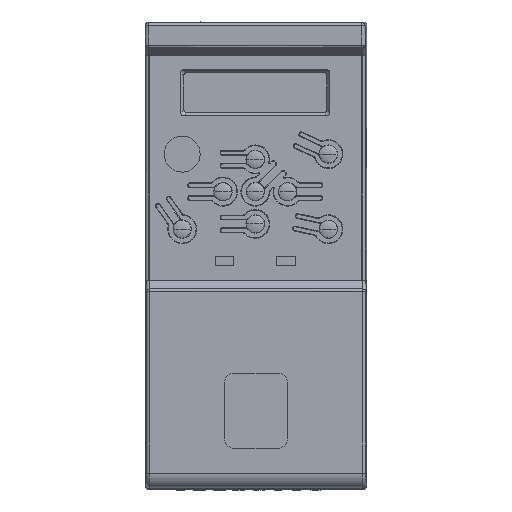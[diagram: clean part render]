
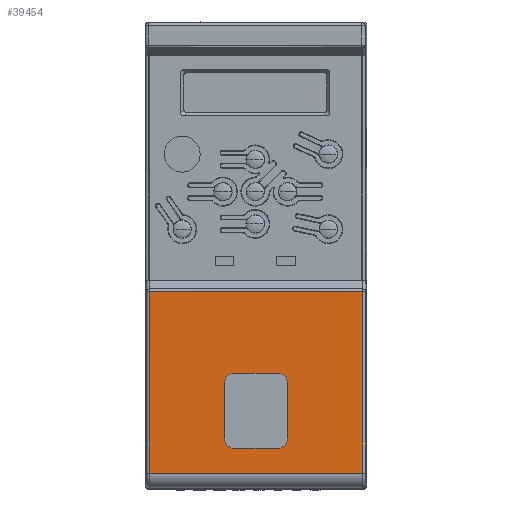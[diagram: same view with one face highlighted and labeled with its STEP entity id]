
A CAD part, front view. The second image highlights one B-rep face of the part: STEP entity #39454.
In plain terms, the highlighted planar face has unit normal (0, -1, 0).
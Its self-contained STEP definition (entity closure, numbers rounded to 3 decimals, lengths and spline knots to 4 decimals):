
#406=FACE_BOUND('',#6504,.T.);
#1829=CIRCLE('',#42625,0.1181);
#1830=CIRCLE('',#42626,0.1181);
#1831=CIRCLE('',#42627,0.1181);
#1832=CIRCLE('',#42628,0.1181);
#2018=B_SPLINE_CURVE_WITH_KNOTS('',3,(#70704,#70705,#70706,#70707,#70708,
#70709,#70710,#70711,#70712,#70713,#70714,#70715,#70716,#70717),
 .UNSPECIFIED.,.F.,.F.,(4,1,1,1,1,1,1,1,1,1,1,4),(0.,0.0734,0.1587,
0.2547,0.364,0.4854,0.6046,0.7106,
0.8043,0.8874,0.9619,1.),.UNSPECIFIED.);
#4346=FACE_OUTER_BOUND('',#6503,.T.);
#6503=EDGE_LOOP('',(#34093,#34094,#34095,#34096));
#6504=EDGE_LOOP('',(#34097,#34098,#34099,#34100,#34101,#34102,#34103,#34104));
#10464=LINE('',#70695,#14426);
#10465=LINE('',#70703,#14427);
#10466=LINE('',#70718,#14428);
#10467=LINE('',#70721,#14429);
#10468=LINE('',#70725,#14430);
#10469=LINE('',#70729,#14431);
#10470=LINE('',#70733,#14432);
#14426=VECTOR('',#52847,2.3278);
#14427=VECTOR('',#52856,2.3278);
#14428=VECTOR('',#52857,2.7358);
#14429=VECTOR('',#52858,0.7244);
#14430=VECTOR('',#52861,0.5669);
#14431=VECTOR('',#52864,0.7244);
#14432=VECTOR('',#52867,0.5669);
#17916=VERTEX_POINT('',#70693);
#17917=VERTEX_POINT('',#70694);
#17919=VERTEX_POINT('',#70701);
#17920=VERTEX_POINT('',#70702);
#17921=VERTEX_POINT('',#70719);
#17922=VERTEX_POINT('',#70720);
#17923=VERTEX_POINT('',#70722);
#17924=VERTEX_POINT('',#70724);
#17925=VERTEX_POINT('',#70726);
#17926=VERTEX_POINT('',#70728);
#17927=VERTEX_POINT('',#70730);
#17928=VERTEX_POINT('',#70732);
#23319=EDGE_CURVE('',#17916,#17917,#10464,.T.);
#23323=EDGE_CURVE('',#17919,#17920,#10465,.T.);
#23324=EDGE_CURVE('',#17916,#17920,#2018,.T.);
#23325=EDGE_CURVE('',#17917,#17919,#10466,.T.);
#23326=EDGE_CURVE('',#17921,#17922,#10467,.T.);
#23327=EDGE_CURVE('',#17923,#17922,#1829,.T.);
#23328=EDGE_CURVE('',#17923,#17924,#10468,.T.);
#23329=EDGE_CURVE('',#17925,#17924,#1830,.T.);
#23330=EDGE_CURVE('',#17925,#17926,#10469,.T.);
#23331=EDGE_CURVE('',#17927,#17926,#1831,.T.);
#23332=EDGE_CURVE('',#17927,#17928,#10470,.T.);
#23333=EDGE_CURVE('',#17921,#17928,#1832,.T.);
#34093=ORIENTED_EDGE('',*,*,#23323,.T.);
#34094=ORIENTED_EDGE('',*,*,#23324,.F.);
#34095=ORIENTED_EDGE('',*,*,#23319,.T.);
#34096=ORIENTED_EDGE('',*,*,#23325,.T.);
#34097=ORIENTED_EDGE('',*,*,#23326,.T.);
#34098=ORIENTED_EDGE('',*,*,#23327,.F.);
#34099=ORIENTED_EDGE('',*,*,#23328,.T.);
#34100=ORIENTED_EDGE('',*,*,#23329,.F.);
#34101=ORIENTED_EDGE('',*,*,#23330,.T.);
#34102=ORIENTED_EDGE('',*,*,#23331,.F.);
#34103=ORIENTED_EDGE('',*,*,#23332,.T.);
#34104=ORIENTED_EDGE('',*,*,#23333,.F.);
#35474=PLANE('',#42624);
#39454=ADVANCED_FACE('',(#4346,#406),#35474,.F.);
#42624=AXIS2_PLACEMENT_3D('',#70700,#52854,#52855);
#42625=AXIS2_PLACEMENT_3D('',#70723,#52859,#52860);
#42626=AXIS2_PLACEMENT_3D('',#70727,#52862,#52863);
#42627=AXIS2_PLACEMENT_3D('',#70731,#52865,#52866);
#42628=AXIS2_PLACEMENT_3D('',#70734,#52868,#52869);
#52847=DIRECTION('',(0.,0.,-1.));
#52854=DIRECTION('center_axis',(0.,1.,0.));
#52855=DIRECTION('ref_axis',(1.,0.,0.));
#52856=DIRECTION('',(0.,0.,1.));
#52857=DIRECTION('',(1.,0.,0.));
#52858=DIRECTION('',(0.,0.,-1.));
#52859=DIRECTION('center_axis',(0.,-1.,0.));
#52860=DIRECTION('ref_axis',(0.,0.,-1.));
#52861=DIRECTION('',(-1.,0.,0.));
#52862=DIRECTION('center_axis',(0.,-1.,0.));
#52863=DIRECTION('ref_axis',(-1.,0.,0.));
#52864=DIRECTION('',(0.,0.,1.));
#52865=DIRECTION('center_axis',(0.,-1.,0.));
#52866=DIRECTION('ref_axis',(0.,0.,1.));
#52867=DIRECTION('',(1.,0.,0.));
#52868=DIRECTION('center_axis',(0.,-1.,0.));
#52869=DIRECTION('ref_axis',(1.,0.,0.));
#70693=CARTESIAN_POINT('',(-1.3679,-0.1417,-0.4598));
#70694=CARTESIAN_POINT('',(-1.3679,-0.1417,-2.7876));
#70695=CARTESIAN_POINT('',(-1.3679,-0.1417,-0.4598));
#70700=CARTESIAN_POINT('Origin',(-1.4173,-0.1417,-2.9921));
#70701=CARTESIAN_POINT('',(1.3679,-0.1417,-2.7876));
#70702=CARTESIAN_POINT('',(1.3679,-0.1417,-0.4598));
#70703=CARTESIAN_POINT('',(1.3679,-0.1417,-2.7876));
#70704=CARTESIAN_POINT('Ctrl Pts',(-1.3679,-0.1417,
-0.4598));
#70705=CARTESIAN_POINT('Ctrl Pts',(-1.301,-0.1417,
-0.4586));
#70706=CARTESIAN_POINT('Ctrl Pts',(-1.1563,-0.1417,
-0.4564));
#70707=CARTESIAN_POINT('Ctrl Pts',(-0.9241,-0.1417,
-0.4536));
#70708=CARTESIAN_POINT('Ctrl Pts',(-0.6591,-0.1417,
-0.4513));
#70709=CARTESIAN_POINT('Ctrl Pts',(-0.3611,-0.1417,
-0.4497));
#70710=CARTESIAN_POINT('Ctrl Pts',(-0.0419,-0.1417,
-0.4491));
#70711=CARTESIAN_POINT('Ctrl Pts',(0.2742,-0.1417,
-0.4494));
#70712=CARTESIAN_POINT('Ctrl Pts',(0.565,-0.1417,
-0.4507));
#70713=CARTESIAN_POINT('Ctrl Pts',(0.8229,-0.1417,
-0.4526));
#70714=CARTESIAN_POINT('Ctrl Pts',(1.052,-0.1417,
-0.4551));
#70715=CARTESIAN_POINT('Ctrl Pts',(1.2305,-0.1417,
-0.4575));
#70716=CARTESIAN_POINT('Ctrl Pts',(1.3331,-0.1417,
-0.4592));
#70717=CARTESIAN_POINT('Ctrl Pts',(1.3679,-0.1417,
-0.4598));
#70718=CARTESIAN_POINT('',(-1.3679,-0.1417,-2.7876));
#70719=CARTESIAN_POINT('',(0.4016,-0.1417,-1.626));
#70720=CARTESIAN_POINT('',(0.4016,-0.1417,-2.3504));
#70721=CARTESIAN_POINT('',(0.4016,-0.1417,-1.626));
#70722=CARTESIAN_POINT('',(0.2835,-0.1417,-2.4685));
#70723=CARTESIAN_POINT('Origin',(0.2835,-0.1417,-2.3504));
#70724=CARTESIAN_POINT('',(-0.2835,-0.1417,-2.4685));
#70725=CARTESIAN_POINT('',(0.2835,-0.1417,-2.4685));
#70726=CARTESIAN_POINT('',(-0.4016,-0.1417,-2.3504));
#70727=CARTESIAN_POINT('Origin',(-0.2835,-0.1417,
-2.3504));
#70728=CARTESIAN_POINT('',(-0.4016,-0.1417,-1.626));
#70729=CARTESIAN_POINT('',(-0.4016,-0.1417,-2.3504));
#70730=CARTESIAN_POINT('',(-0.2835,-0.1417,-1.5079));
#70731=CARTESIAN_POINT('Origin',(-0.2835,-0.1417,
-1.626));
#70732=CARTESIAN_POINT('',(0.2835,-0.1417,-1.5079));
#70733=CARTESIAN_POINT('',(-0.2835,-0.1417,-1.5079));
#70734=CARTESIAN_POINT('Origin',(0.2835,-0.1417,-1.626));
